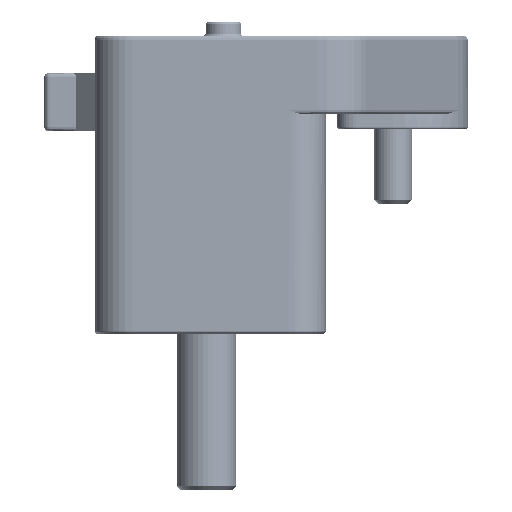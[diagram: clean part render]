
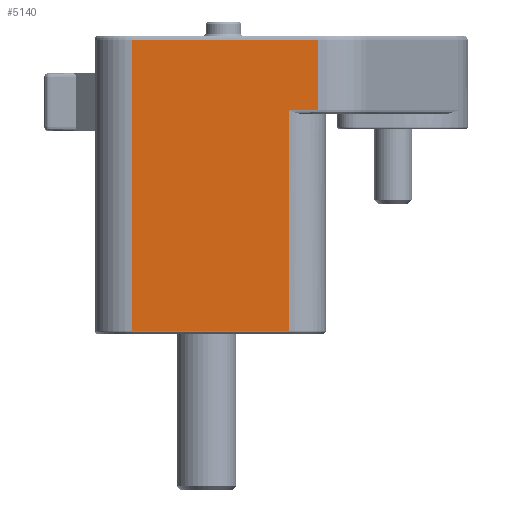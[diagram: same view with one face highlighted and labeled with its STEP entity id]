
A CAD part, left-side view. The second image highlights one B-rep face of the part: STEP entity #5140.
In plain terms, the highlighted planar face has unit normal (-1, 0, 0).
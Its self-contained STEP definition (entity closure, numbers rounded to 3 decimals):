
#5140=ADVANCED_FACE('',(#6884),#6175,.F.);
#6175=PLANE('',#37580);
#6884=FACE_OUTER_BOUND('',#9091,.T.);
#9091=EDGE_LOOP('',(#13398,#13399,#13400,#13401,#13402,#13403));
#13398=ORIENTED_EDGE('',*,*,#21833,.T.);
#13399=ORIENTED_EDGE('',*,*,#21834,.T.);
#13400=ORIENTED_EDGE('',*,*,#21835,.F.);
#13401=ORIENTED_EDGE('',*,*,#21836,.T.);
#13402=ORIENTED_EDGE('',*,*,#21837,.T.);
#13403=ORIENTED_EDGE('',*,*,#21838,.T.);
#18955=VERTEX_POINT('',#95882);
#18956=VERTEX_POINT('',#95883);
#18957=VERTEX_POINT('',#95885);
#18958=VERTEX_POINT('',#95887);
#18959=VERTEX_POINT('',#95889);
#18960=VERTEX_POINT('',#95891);
#21833=EDGE_CURVE('',#18955,#18956,#32191,.T.);
#21834=EDGE_CURVE('',#18956,#18957,#32192,.T.);
#21835=EDGE_CURVE('',#18958,#18957,#32193,.T.);
#21836=EDGE_CURVE('',#18958,#18959,#32194,.T.);
#21837=EDGE_CURVE('',#18959,#18960,#32195,.T.);
#21838=EDGE_CURVE('',#18960,#18955,#32196,.T.);
#32191=LINE('',#95881,#34874);
#32192=LINE('',#95884,#34875);
#32193=LINE('',#95886,#34876);
#32194=LINE('',#95888,#34877);
#32195=LINE('',#95890,#34878);
#32196=LINE('',#95892,#34879);
#34874=VECTOR('',#44467,1.);
#34875=VECTOR('',#44468,1.);
#34876=VECTOR('',#44469,1.);
#34877=VECTOR('',#44470,1.);
#34878=VECTOR('',#44471,1.);
#34879=VECTOR('',#44472,1.);
#37580=AXIS2_PLACEMENT_3D('',#95893,#44473,#44474);
#44467=DIRECTION('',(0.,0.,1.));
#44468=DIRECTION('',(0.,1.,0.));
#44469=DIRECTION('',(0.,0.,1.));
#44470=DIRECTION('',(0.,-1.,0.));
#44471=DIRECTION('',(0.,0.,1.));
#44472=DIRECTION('',(0.,-1.,0.));
#44473=DIRECTION('',(1.,0.,0.));
#44474=DIRECTION('',(0.,-1.,0.));
#95881=CARTESIAN_POINT('',(0.,53.707,62.));
#95882=CARTESIAN_POINT('',(0.,53.707,60.));
#95883=CARTESIAN_POINT('',(0.,53.707,79.));
#95884=CARTESIAN_POINT('',(0.,61.5,79.));
#95885=CARTESIAN_POINT('',(0.,103.5,79.));
#95886=CARTESIAN_POINT('',(0.,103.5,0.));
#95887=CARTESIAN_POINT('',(0.,103.5,1.));
#95888=CARTESIAN_POINT('',(0.,61.5,1.));
#95889=CARTESIAN_POINT('',(0.,61.5,1.));
#95890=CARTESIAN_POINT('',(0.,61.5,0.));
#95891=CARTESIAN_POINT('',(0.,61.5,60.));
#95892=CARTESIAN_POINT('',(0.,61.5,60.));
#95893=CARTESIAN_POINT('',(0.,61.5,0.));
